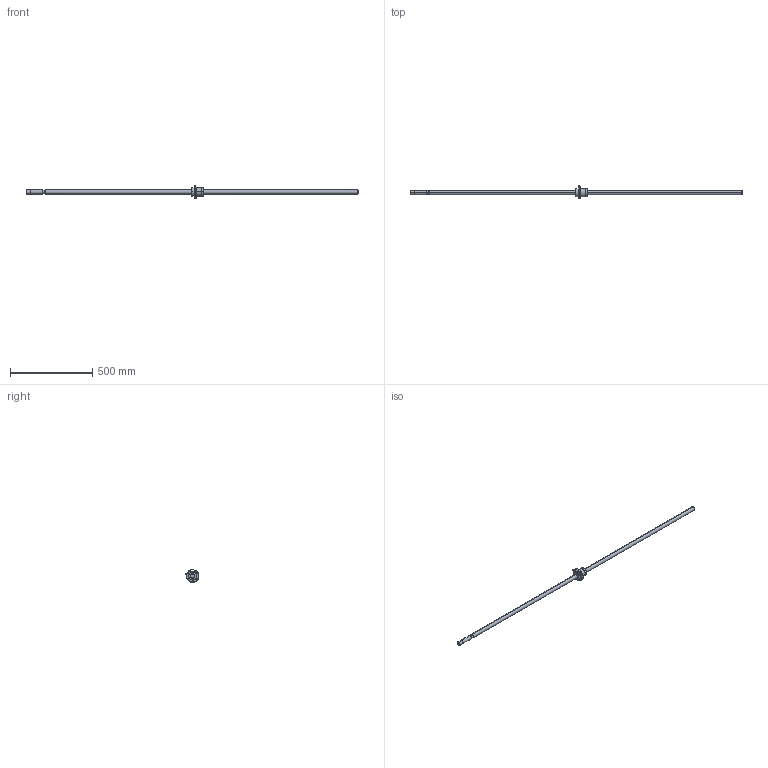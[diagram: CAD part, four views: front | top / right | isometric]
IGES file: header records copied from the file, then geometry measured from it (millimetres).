
Global section: file name: No Iges File Name specified; native system: AutoDesk Inventor R10; preprocessor: AutoDesk Inventor Iges Exporter R10; author: No Author specified; organization: No Organization specified; date: 20101224.134610; units: millimetre
Bounding box: 2015 x 83.6 x 76 mm (x, y, z)
Surface area: 186636.8 mm2 (no closed solid volume)
Topology: 0 solids, 0 shells, 74 faces, 486 edges, 482 vertices
Faces by surface type: bspline 74
